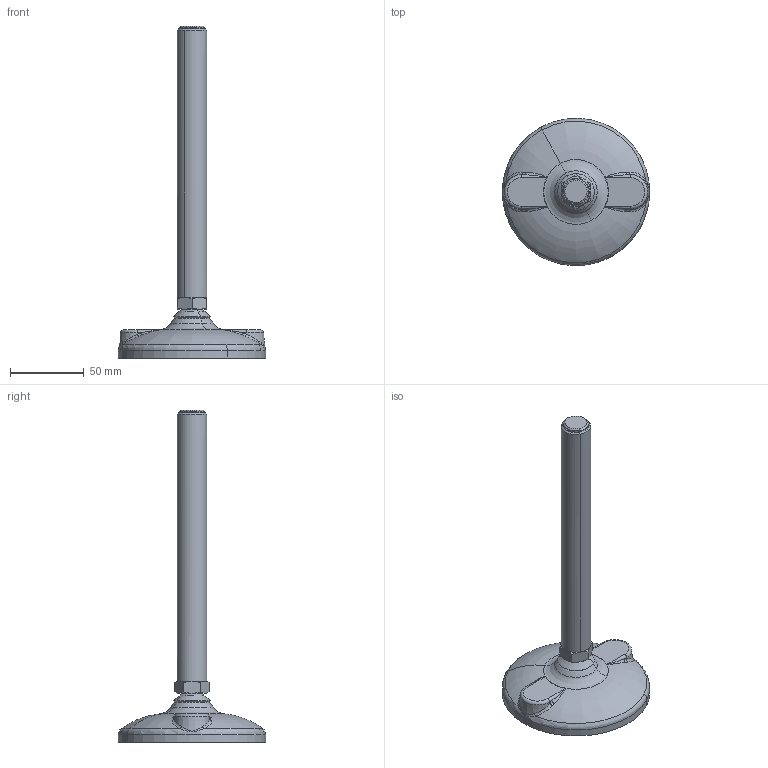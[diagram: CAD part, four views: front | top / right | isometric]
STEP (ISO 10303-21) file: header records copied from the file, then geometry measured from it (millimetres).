
FILE_DESCRIPTION(('CATIA V5 STEP Exchange'),'2;1');
FILE_NAME('X:\CODICI MOVEX\3D per clienti\3D definitivi\Part 900\P91403H_01.stp','2016-06-29T09:04:50+00:00',('none'),('none'),'Version 5-6 Release 2012','CATIA V5 STEP AP203','none');
FILE_SCHEMA(('CONFIG_CONTROL_DESIGN'));
Products named in the file (1): P91403H_01
Assembly tree (3 placements, depth 2):
  P91403H_01
    #58
    #1302
    #1643
Bounding box: 99.97 x 99.97 x 225.11 mm (x, y, z)
Volume: 135227.9 mm3; surface area: 60649.8 mm2
Topology: 3 solids, 5 shells, 993 faces, 2677 edges, 1673 vertices
Faces by surface type: plane 509, bspline 214, torus 92, cylinder 86, cone 46, sphere 24, revolution 22
Entity records: 44035 total; most frequent: CARTESIAN_POINT 23997, ORIENTED_EDGE 5286, EDGE_CURVE 2643, DIRECTION 2228, VERTEX_POINT 1673, B_SPLINE_CURVE_WITH_KNOTS 1599, EDGE_LOOP 1010, AXIS2_PLACEMENT_3D 998
